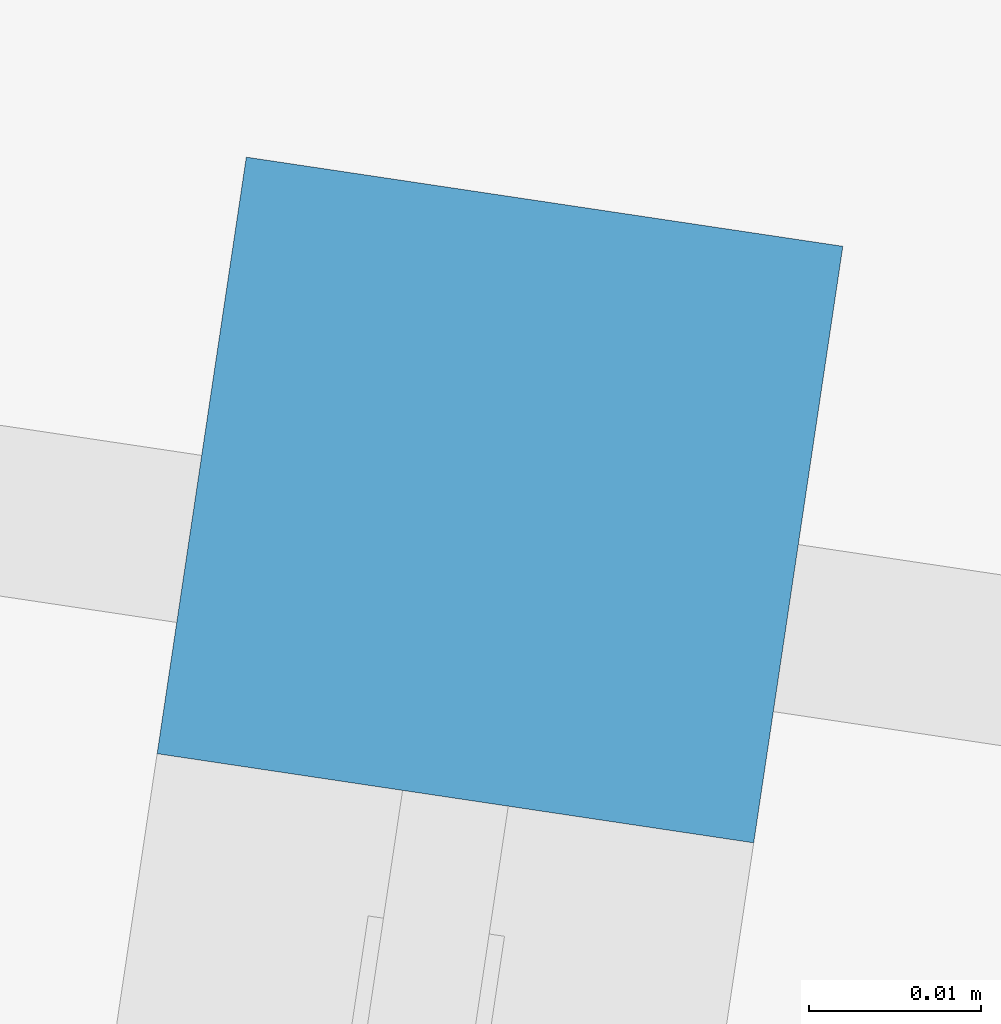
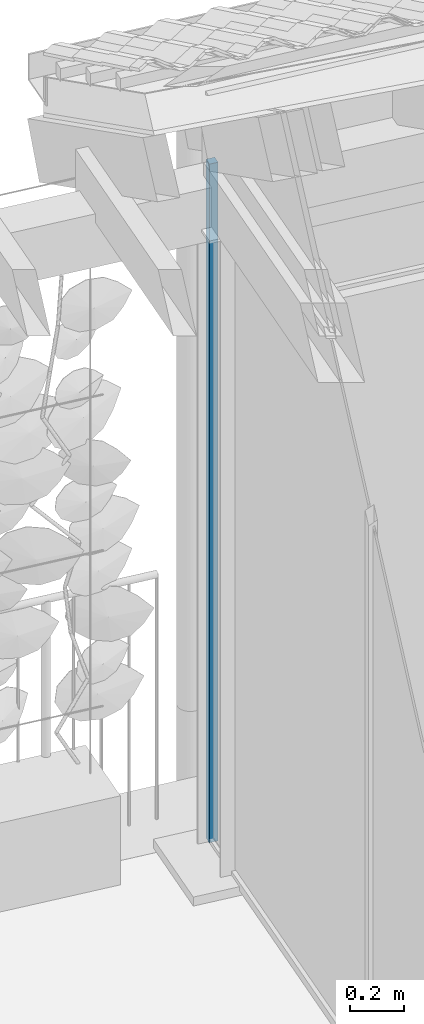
# One storey, part 41 of 128: 1 member.
"""IFC4 building model written with IfcOpenShell, lengths in metres."""

from ifc_helpers import new_model, si_unit, direction, frame, origin_with_axes, place, context, subcontext, project, spatial, rectangle, extrude, material, material_profile, profile_set, profile_usage, type_object, element, save


model = new_model("IFC4")

# Units and contexts
model_context = context("Model", 3, precision=1e-05, world=origin_with_axes(), true_north=direction((0.0, 1.0)))
body_context = subcontext(model_context, "Body", "Model", "MODEL_VIEW")
ifc_project = project(units=[si_unit("VOLUMEUNIT", "CUBIC_METRE"), si_unit("LENGTHUNIT", "METRE"), si_unit("AREAUNIT", "SQUARE_METRE")], contexts=[model_context])

# Site, building, storey
site_placement = place(None, origin_with_axes())
site = spatial("IfcSite", under=ifc_project, at=site_placement, Name="Lares · Rua das Mercês · artigo 4771")
building_placement = place(site_placement, frame((15.0, 9.7, 13.9), z_axis=(0.0, 0.0, 1.0), x_axis=(0.989015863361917, -0.147809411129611, 0.0)))
building = spatial("IfcBuilding", under=site, at=building_placement, Name="Casa Sobreposta")
storey_placement = place(building_placement, origin_with_axes())
storey = spatial("IfcBuildingStorey", under=building, at=storey_placement, Name="00 · Habitação e estacionamento", Elevation=13.9)

# Member
ifc_material = material(Name="Aço pintado / Stahl lackiert", Category="steel")
ifc_material_profile = material_profile(ifc_material, rectangle(XDim=0.035, YDim=0.035))
ifc_profile_set = profile_set([ifc_material_profile], Name="R0.035")
ifc_profile_usage = profile_usage(ifc_profile_set)
member_type = type_object("IfcMemberType", Name="R0.035 / steel", PredefinedType="NOTDEFINED", material=ifc_profile_set)
member_placement = place(storey_placement, frame((0.0, 6.4, 0.0), z_axis=(0.0, 0.0, 1.0), x_axis=(1.0, 0.0, 0.0)))
element("IfcMember", 1, at=member_placement, inside=storey, type_object=member_type, material=ifc_profile_usage, Name="Fachada poente integralmente envidraçada · módulo 4 · montante", context=body_context, shape_type="SweptSolid", body=[
    extrude(rectangle(XDim=0.035, YDim=0.035), origin_with_axes(), (0.0, 0.0, 1.0), 3.05),
])

save(model, "model.ifc")
